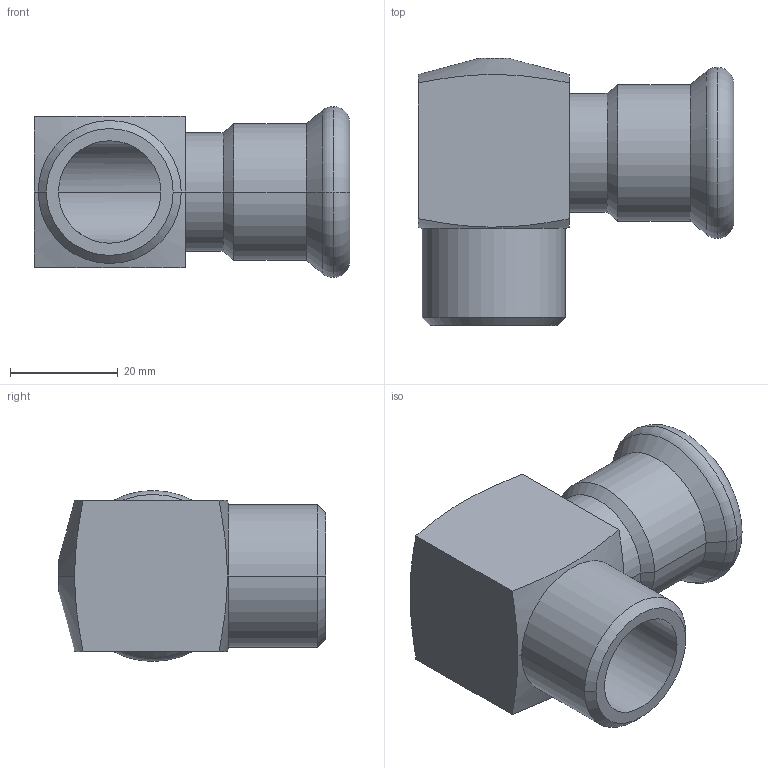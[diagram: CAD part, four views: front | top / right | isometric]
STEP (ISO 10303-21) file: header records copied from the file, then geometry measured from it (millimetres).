
FILE_DESCRIPTION(('CoCreate Modeling STEP Export'),'2;1');
FILE_NAME('C1428 22xR3-4.stp','2014-11-12T16:06:37',(''),(''),'CoCreate Modeling STEP processor for AP214 (Solid Model)','CoCreate Modeling 17.00A 17-Jun-2010 (C) Parametric Technology GmbH','');
FILE_SCHEMA(('AUTOMOTIVE_DESIGN { 1 0 10303 214 1 1 1 1 }'));
Length unit declared in the file: millimetre
Products named in the file (2): C1428_22xR3-4
Assembly tree (1 placements, depth 2):
  C1428_22xR3-4
    C1428_22xR3-4
Bounding box: 58.5 x 49.5 x 31.7 mm (x, y, z)
Volume: 24681.7 mm3; surface area: 13233.5 mm2
Topology: 1 solids, 1 shells, 38 faces, 91 edges, 59 vertices
Faces by surface type: cylinder 14, plane 10, cone 10, torus 4
Entity records: 1766 total; most frequent: CARTESIAN_POINT 925, ORIENTED_EDGE 182, DIRECTION 138, EDGE_CURVE 91, VERTEX_POINT 59, AXIS2_PLACEMENT_3D 55, EDGE_LOOP 44, FACE_OUTER_BOUND 38
